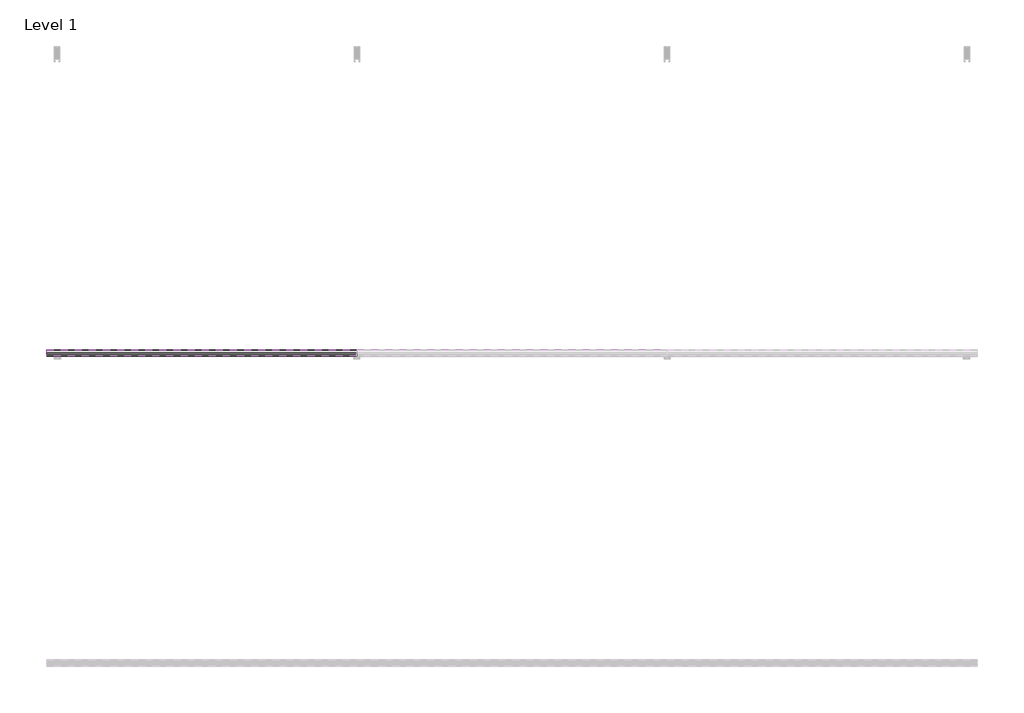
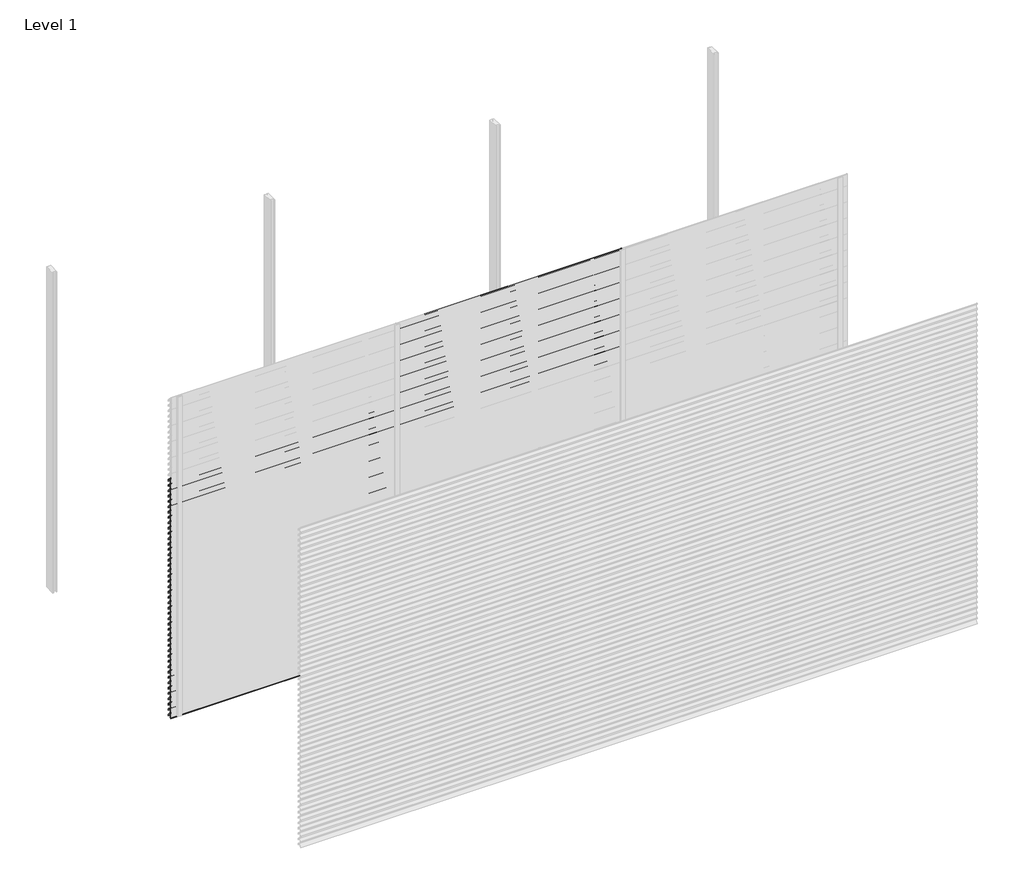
# One storey, part 22 of 38: 66 proxies.
"""IFC4 building model written with IfcOpenShell, lengths in millimetres."""

from ifc_helpers import new_model, si_unit, frame, origin, place, context, project, spatial, polyline, outline, extrude, element, save

model = new_model("IFC4")

# Units and contexts
model_context = context("Model", 3, world=origin())
ifc_project = project(units=[si_unit("LENGTHUNIT", "METRE", prefix="MILLI")], contexts=[model_context])

# Site, building, storey
site = spatial("IfcSite", under=ifc_project)
building = spatial("IfcBuilding", under=site)
storey = spatial("IfcBuildingStorey", under=building, Name="Level 1", Elevation=0.0)

# Proxies
placement = place(None, origin())
element("IfcBuildingElementProxy", 1, Name="Wall Sweeps", at=placement, inside=storey, context=model_context, shape_type="SweptSolid", body=[
    extrude(outline(polyline([(-23996.75, 2250.0), (-23996.75, 2239.19656), (-23974.6057113, 2226.4115489), (-23957.0, 2209.0472005), (-23957.0, 2194.0472005), (-23958.3, 2195.0268207), (-23958.3, 2208.5034593), (-23969.4914725, 2219.541504), (-23994.2797376, 2190.0), (-23995.9767671, 2190.0), (-23970.4200307, 2220.4573323), (-23975.3999793, 2225.3690091), (-23998.0, 2238.4171371), (-23998.0, 2250.0), (-23996.75, 2250.0)])), frame((0.0, 0.0, 0.0), z_axis=(1.0, 0.0, 0.0), x_axis=(0.0, 1.0, 0.0)), (0.0, 0.0, 1.0), 2000.0),
])
element("IfcBuildingElementProxy", 2, Name="Wall Sweeps", at=placement, inside=storey, context=model_context, shape_type="SweptSolid", body=[
    extrude(outline(polyline([(-23996.75, 2200.0), (-23996.75, 2189.19656), (-23974.6057113, 2176.4115489), (-23957.0, 2159.0472005), (-23957.0, 2144.0472005), (-23958.3, 2145.0268207), (-23958.3, 2158.5034593), (-23969.4914725, 2169.541504), (-23994.2797376, 2140.0), (-23995.9767671, 2140.0), (-23970.4200307, 2170.4573323), (-23975.3999793, 2175.3690091), (-23998.0, 2188.4171371), (-23998.0, 2200.0), (-23996.75, 2200.0)])), frame((0.0, 0.0, 0.0), z_axis=(1.0, 0.0, 0.0), x_axis=(0.0, 1.0, 0.0)), (0.0, 0.0, 1.0), 2000.0),
])
element("IfcBuildingElementProxy", 3, Name="Wall Sweeps", at=placement, inside=storey, context=model_context, shape_type="SweptSolid", body=[
    extrude(outline(polyline([(-23996.75, 2150.0), (-23996.75, 2139.19656), (-23974.6057113, 2126.4115489), (-23957.0, 2109.0472005), (-23957.0, 2094.0472005), (-23958.3, 2095.0268207), (-23958.3, 2108.5034593), (-23969.4914725, 2119.541504), (-23994.2797376, 2090.0), (-23995.9767671, 2090.0), (-23970.4200307, 2120.4573323), (-23975.3999793, 2125.3690091), (-23998.0, 2138.4171371), (-23998.0, 2150.0), (-23996.75, 2150.0)])), frame((0.0, 0.0, 0.0), z_axis=(1.0, 0.0, 0.0), x_axis=(0.0, 1.0, 0.0)), (0.0, 0.0, 1.0), 2000.0),
])
element("IfcBuildingElementProxy", 4, Name="Wall Sweeps", at=placement, inside=storey, context=model_context, shape_type="SweptSolid", body=[
    extrude(outline(polyline([(-23996.75, 2100.0), (-23996.75, 2089.19656), (-23974.6057113, 2076.4115489), (-23957.0, 2059.0472005), (-23957.0, 2044.0472005), (-23958.3, 2045.0268207), (-23958.3, 2058.5034593), (-23969.4914725, 2069.541504), (-23994.2797376, 2040.0), (-23995.9767671, 2040.0), (-23970.4200307, 2070.4573323), (-23975.3999793, 2075.3690091), (-23998.0, 2088.4171371), (-23998.0, 2100.0), (-23996.75, 2100.0)])), frame((0.0, 0.0, 0.0), z_axis=(1.0, 0.0, 0.0), x_axis=(0.0, 1.0, 0.0)), (0.0, 0.0, 1.0), 2000.0),
])
element("IfcBuildingElementProxy", 5, Name="Wall Sweeps", at=placement, inside=storey, context=model_context, shape_type="SweptSolid", body=[
    extrude(outline(polyline([(-23996.75, 2050.0), (-23996.75, 2039.19656), (-23974.6057113, 2026.4115489), (-23957.0, 2009.0472005), (-23957.0, 1994.0472005), (-23958.3, 1995.0268207), (-23958.3, 2008.5034593), (-23969.4914725, 2019.541504), (-23994.2797376, 1990.0), (-23995.9767671, 1990.0), (-23970.4200307, 2020.4573323), (-23975.3999793, 2025.3690091), (-23998.0, 2038.4171371), (-23998.0, 2050.0), (-23996.75, 2050.0)])), frame((0.0, 0.0, 0.0), z_axis=(1.0, 0.0, 0.0), x_axis=(0.0, 1.0, 0.0)), (0.0, 0.0, 1.0), 2000.0),
])
element("IfcBuildingElementProxy", 6, Name="Wall Sweeps", at=placement, inside=storey, context=model_context, shape_type="SweptSolid", body=[
    extrude(outline(polyline([(-23996.75, 2000.0), (-23996.75, 1989.19656), (-23974.6057113, 1976.4115489), (-23957.0, 1959.0472005), (-23957.0, 1944.0472005), (-23958.3, 1945.0268207), (-23958.3, 1958.5034593), (-23969.4914725, 1969.541504), (-23994.2797376, 1940.0), (-23995.9767671, 1940.0), (-23970.4200307, 1970.4573323), (-23975.3999793, 1975.3690091), (-23998.0, 1988.4171371), (-23998.0, 2000.0), (-23996.75, 2000.0)])), frame((0.0, 0.0, 0.0), z_axis=(1.0, 0.0, 0.0), x_axis=(0.0, 1.0, 0.0)), (0.0, 0.0, 1.0), 2000.0),
])
element("IfcBuildingElementProxy", 7, Name="Wall Sweeps", at=placement, inside=storey, context=model_context, shape_type="SweptSolid", body=[
    extrude(outline(polyline([(-23996.75, 1950.0), (-23996.75, 1939.19656), (-23974.6057113, 1926.4115489), (-23957.0, 1909.0472005), (-23957.0, 1894.0472005), (-23958.3, 1895.0268207), (-23958.3, 1908.5034593), (-23969.4914725, 1919.541504), (-23994.2797376, 1890.0), (-23995.9767671, 1890.0), (-23970.4200307, 1920.4573323), (-23975.3999793, 1925.3690091), (-23998.0, 1938.4171371), (-23998.0, 1950.0), (-23996.75, 1950.0)])), frame((0.0, 0.0, 0.0), z_axis=(1.0, 0.0, 0.0), x_axis=(0.0, 1.0, 0.0)), (0.0, 0.0, 1.0), 2000.0),
])
element("IfcBuildingElementProxy", 8, Name="Wall Sweeps", at=placement, inside=storey, context=model_context, shape_type="SweptSolid", body=[
    extrude(outline(polyline([(-23996.75, 1900.0), (-23996.75, 1889.19656), (-23974.6057113, 1876.4115489), (-23957.0, 1859.0472005), (-23957.0, 1844.0472005), (-23958.3, 1845.0268207), (-23958.3, 1858.5034593), (-23969.4914725, 1869.541504), (-23994.2797376, 1840.0), (-23995.9767671, 1840.0), (-23970.4200307, 1870.4573323), (-23975.3999793, 1875.3690091), (-23998.0, 1888.4171371), (-23998.0, 1900.0), (-23996.75, 1900.0)])), frame((0.0, 0.0, 0.0), z_axis=(1.0, 0.0, 0.0), x_axis=(0.0, 1.0, 0.0)), (0.0, 0.0, 1.0), 2000.0),
])
element("IfcBuildingElementProxy", 9, Name="Wall Sweeps", at=placement, inside=storey, context=model_context, shape_type="SweptSolid", body=[
    extrude(outline(polyline([(-23996.75, 1850.0), (-23996.75, 1839.19656), (-23974.6057113, 1826.4115489), (-23957.0, 1809.0472005), (-23957.0, 1794.0472005), (-23958.3, 1795.0268207), (-23958.3, 1808.5034593), (-23969.4914725, 1819.541504), (-23994.2797376, 1790.0), (-23995.9767671, 1790.0), (-23970.4200307, 1820.4573323), (-23975.3999793, 1825.3690091), (-23998.0, 1838.4171371), (-23998.0, 1850.0), (-23996.75, 1850.0)])), frame((0.0, 0.0, 0.0), z_axis=(1.0, 0.0, 0.0), x_axis=(0.0, 1.0, 0.0)), (0.0, 0.0, 1.0), 2000.0),
])
element("IfcBuildingElementProxy", 10, Name="Wall Sweeps", at=placement, inside=storey, context=model_context, shape_type="SweptSolid", body=[
    extrude(outline(polyline([(-23996.75, 1800.0), (-23996.75, 1789.19656), (-23974.6057113, 1776.4115489), (-23957.0, 1759.0472005), (-23957.0, 1744.0472005), (-23958.3, 1745.0268207), (-23958.3, 1758.5034593), (-23969.4914725, 1769.541504), (-23994.2797376, 1740.0), (-23995.9767671, 1740.0), (-23970.4200307, 1770.4573323), (-23975.3999793, 1775.3690091), (-23998.0, 1788.4171371), (-23998.0, 1800.0), (-23996.75, 1800.0)])), frame((0.0, 0.0, 0.0), z_axis=(1.0, 0.0, 0.0), x_axis=(0.0, 1.0, 0.0)), (0.0, 0.0, 1.0), 2000.0),
])
element("IfcBuildingElementProxy", 11, Name="Wall Sweeps", at=placement, inside=storey, context=model_context, shape_type="SweptSolid", body=[
    extrude(outline(polyline([(-23996.75, 1750.0), (-23996.75, 1739.19656), (-23974.6057113, 1726.4115489), (-23957.0, 1709.0472005), (-23957.0, 1694.0472005), (-23958.3, 1695.0268207), (-23958.3, 1708.5034593), (-23969.4914725, 1719.541504), (-23994.2797376, 1690.0), (-23995.9767671, 1690.0), (-23970.4200307, 1720.4573323), (-23975.3999793, 1725.3690091), (-23998.0, 1738.4171371), (-23998.0, 1750.0), (-23996.75, 1750.0)])), frame((0.0, 0.0, 0.0), z_axis=(1.0, 0.0, 0.0), x_axis=(0.0, 1.0, 0.0)), (0.0, 0.0, 1.0), 2000.0),
])
element("IfcBuildingElementProxy", 12, Name="Wall Sweeps", at=placement, inside=storey, context=model_context, shape_type="SweptSolid", body=[
    extrude(outline(polyline([(-23996.75, 1700.0), (-23996.75, 1689.19656), (-23974.6057113, 1676.4115489), (-23957.0, 1659.0472005), (-23957.0, 1644.0472005), (-23958.3, 1645.0268207), (-23958.3, 1658.5034593), (-23969.4914725, 1669.541504), (-23994.2797376, 1640.0), (-23995.9767671, 1640.0), (-23970.4200307, 1670.4573323), (-23975.3999793, 1675.3690091), (-23998.0, 1688.4171371), (-23998.0, 1700.0), (-23996.75, 1700.0)])), frame((0.0, 0.0, 0.0), z_axis=(1.0, 0.0, 0.0), x_axis=(0.0, 1.0, 0.0)), (0.0, 0.0, 1.0), 2000.0),
])
element("IfcBuildingElementProxy", 13, Name="Wall Sweeps", at=placement, inside=storey, context=model_context, shape_type="SweptSolid", body=[
    extrude(outline(polyline([(-23996.75, 1650.0), (-23996.75, 1639.19656), (-23974.6057113, 1626.4115489), (-23957.0, 1609.0472005), (-23957.0, 1594.0472005), (-23958.3, 1595.0268207), (-23958.3, 1608.5034593), (-23969.4914725, 1619.541504), (-23994.2797376, 1590.0), (-23995.9767671, 1590.0), (-23970.4200307, 1620.4573323), (-23975.3999793, 1625.3690091), (-23998.0, 1638.4171371), (-23998.0, 1650.0), (-23996.75, 1650.0)])), frame((0.0, 0.0, 0.0), z_axis=(1.0, 0.0, 0.0), x_axis=(0.0, 1.0, 0.0)), (0.0, 0.0, 1.0), 2000.0),
])
element("IfcBuildingElementProxy", 14, Name="Wall Sweeps", at=placement, inside=storey, context=model_context, shape_type="SweptSolid", body=[
    extrude(outline(polyline([(-23996.75, 1600.0), (-23996.75, 1589.19656), (-23974.6057113, 1576.4115489), (-23957.0, 1559.0472005), (-23957.0, 1544.0472005), (-23958.3, 1545.0268207), (-23958.3, 1558.5034593), (-23969.4914725, 1569.541504), (-23994.2797376, 1540.0), (-23995.9767671, 1540.0), (-23970.4200307, 1570.4573323), (-23975.3999793, 1575.3690091), (-23998.0, 1588.4171371), (-23998.0, 1600.0), (-23996.75, 1600.0)])), frame((0.0, 0.0, 0.0), z_axis=(1.0, 0.0, 0.0), x_axis=(0.0, 1.0, 0.0)), (0.0, 0.0, 1.0), 2000.0),
])
element("IfcBuildingElementProxy", 15, Name="Wall Sweeps", at=placement, inside=storey, context=model_context, shape_type="SweptSolid", body=[
    extrude(outline(polyline([(-23996.75, 1550.0), (-23996.75, 1539.19656), (-23974.6057113, 1526.4115489), (-23957.0, 1509.0472005), (-23957.0, 1494.0472005), (-23958.3, 1495.0268207), (-23958.3, 1508.5034593), (-23969.4914725, 1519.541504), (-23994.2797376, 1490.0), (-23995.9767671, 1490.0), (-23970.4200307, 1520.4573323), (-23975.3999793, 1525.3690091), (-23998.0, 1538.4171371), (-23998.0, 1550.0), (-23996.75, 1550.0)])), frame((0.0, 0.0, 0.0), z_axis=(1.0, 0.0, 0.0), x_axis=(0.0, 1.0, 0.0)), (0.0, 0.0, 1.0), 2000.0),
])
element("IfcBuildingElementProxy", 16, Name="Wall Sweeps", at=placement, inside=storey, context=model_context, shape_type="SweptSolid", body=[
    extrude(outline(polyline([(-23996.75, 1500.0), (-23996.75, 1489.19656), (-23974.6057113, 1476.4115489), (-23957.0, 1459.0472005), (-23957.0, 1444.0472005), (-23958.3, 1445.0268207), (-23958.3, 1458.5034593), (-23969.4914725, 1469.541504), (-23994.2797376, 1440.0), (-23995.9767671, 1440.0), (-23970.4200307, 1470.4573323), (-23975.3999793, 1475.3690091), (-23998.0, 1488.4171371), (-23998.0, 1500.0), (-23996.75, 1500.0)])), frame((0.0, 0.0, 0.0), z_axis=(1.0, 0.0, 0.0), x_axis=(0.0, 1.0, 0.0)), (0.0, 0.0, 1.0), 2000.0),
])
element("IfcBuildingElementProxy", 17, Name="Wall Sweeps", at=placement, inside=storey, context=model_context, shape_type="SweptSolid", body=[
    extrude(outline(polyline([(-23996.75, 1450.0), (-23996.75, 1439.19656), (-23974.6057113, 1426.4115489), (-23957.0, 1409.0472005), (-23957.0, 1394.0472005), (-23958.3, 1395.0268207), (-23958.3, 1408.5034593), (-23969.4914725, 1419.541504), (-23994.2797376, 1390.0), (-23995.9767671, 1390.0), (-23970.4200307, 1420.4573323), (-23975.3999793, 1425.3690091), (-23998.0, 1438.4171371), (-23998.0, 1450.0), (-23996.75, 1450.0)])), frame((0.0, 0.0, 0.0), z_axis=(1.0, 0.0, 0.0), x_axis=(0.0, 1.0, 0.0)), (0.0, 0.0, 1.0), 2000.0),
])
element("IfcBuildingElementProxy", 18, Name="Wall Sweeps", at=placement, inside=storey, context=model_context, shape_type="SweptSolid", body=[
    extrude(outline(polyline([(-23996.75, 1400.0), (-23996.75, 1389.19656), (-23974.6057113, 1376.4115489), (-23957.0, 1359.0472005), (-23957.0, 1344.0472005), (-23958.3, 1345.0268207), (-23958.3, 1358.5034593), (-23969.4914725, 1369.541504), (-23994.2797376, 1340.0), (-23995.9767671, 1340.0), (-23970.4200307, 1370.4573323), (-23975.3999793, 1375.3690091), (-23998.0, 1388.4171371), (-23998.0, 1400.0), (-23996.75, 1400.0)])), frame((0.0, 0.0, 0.0), z_axis=(1.0, 0.0, 0.0), x_axis=(0.0, 1.0, 0.0)), (0.0, 0.0, 1.0), 2000.0),
])
element("IfcBuildingElementProxy", 19, Name="Wall Sweeps", at=placement, inside=storey, context=model_context, shape_type="SweptSolid", body=[
    extrude(outline(polyline([(-23996.75, 1350.0), (-23996.75, 1339.19656), (-23974.6057113, 1326.4115489), (-23957.0, 1309.0472005), (-23957.0, 1294.0472005), (-23958.3, 1295.0268207), (-23958.3, 1308.5034593), (-23969.4914725, 1319.541504), (-23994.2797376, 1290.0), (-23995.9767671, 1290.0), (-23970.4200307, 1320.4573323), (-23975.3999793, 1325.3690091), (-23998.0, 1338.4171371), (-23998.0, 1350.0), (-23996.75, 1350.0)])), frame((0.0, 0.0, 0.0), z_axis=(1.0, 0.0, 0.0), x_axis=(0.0, 1.0, 0.0)), (0.0, 0.0, 1.0), 2000.0),
])
element("IfcBuildingElementProxy", 20, Name="Wall Sweeps", at=placement, inside=storey, context=model_context, shape_type="SweptSolid", body=[
    extrude(outline(polyline([(-23996.75, 1300.0), (-23996.75, 1289.19656), (-23974.6057113, 1276.4115489), (-23957.0, 1259.0472005), (-23957.0, 1244.0472005), (-23958.3, 1245.0268207), (-23958.3, 1258.5034593), (-23969.4914725, 1269.541504), (-23994.2797376, 1240.0), (-23995.9767671, 1240.0), (-23970.4200307, 1270.4573323), (-23975.3999793, 1275.3690091), (-23998.0, 1288.4171371), (-23998.0, 1300.0), (-23996.75, 1300.0)])), frame((0.0, 0.0, 0.0), z_axis=(1.0, 0.0, 0.0), x_axis=(0.0, 1.0, 0.0)), (0.0, 0.0, 1.0), 2000.0),
])
element("IfcBuildingElementProxy", 21, Name="Wall Sweeps", at=placement, inside=storey, context=model_context, shape_type="SweptSolid", body=[
    extrude(outline(polyline([(-23996.75, 1250.0), (-23996.75, 1239.19656), (-23974.6057113, 1226.4115489), (-23957.0, 1209.0472005), (-23957.0, 1194.0472005), (-23958.3, 1195.0268207), (-23958.3, 1208.5034593), (-23969.4914725, 1219.541504), (-23994.2797376, 1190.0), (-23995.9767671, 1190.0), (-23970.4200307, 1220.4573323), (-23975.3999793, 1225.3690091), (-23998.0, 1238.4171371), (-23998.0, 1250.0), (-23996.75, 1250.0)])), frame((0.0, 0.0, 0.0), z_axis=(1.0, 0.0, 0.0), x_axis=(0.0, 1.0, 0.0)), (0.0, 0.0, 1.0), 2000.0),
])
element("IfcBuildingElementProxy", 22, Name="Wall Sweeps", at=placement, inside=storey, context=model_context, shape_type="SweptSolid", body=[
    extrude(outline(polyline([(-23996.75, 1200.0), (-23996.75, 1189.19656), (-23974.6057113, 1176.4115489), (-23957.0, 1159.0472005), (-23957.0, 1144.0472005), (-23958.3, 1145.0268207), (-23958.3, 1158.5034593), (-23969.4914725, 1169.541504), (-23994.2797376, 1140.0), (-23995.9767671, 1140.0), (-23970.4200307, 1170.4573323), (-23975.3999793, 1175.3690091), (-23998.0, 1188.4171371), (-23998.0, 1200.0), (-23996.75, 1200.0)])), frame((0.0, 0.0, 0.0), z_axis=(1.0, 0.0, 0.0), x_axis=(0.0, 1.0, 0.0)), (0.0, 0.0, 1.0), 2000.0),
])
element("IfcBuildingElementProxy", 23, Name="Wall Sweeps", at=placement, inside=storey, context=model_context, shape_type="SweptSolid", body=[
    extrude(outline(polyline([(-23996.75, 1150.0), (-23996.75, 1139.19656), (-23974.6057113, 1126.4115489), (-23957.0, 1109.0472005), (-23957.0, 1094.0472005), (-23958.3, 1095.0268207), (-23958.3, 1108.5034593), (-23969.4914725, 1119.541504), (-23994.2797376, 1090.0), (-23995.9767671, 1090.0), (-23970.4200307, 1120.4573323), (-23975.3999793, 1125.3690091), (-23998.0, 1138.4171371), (-23998.0, 1150.0), (-23996.75, 1150.0)])), frame((0.0, 0.0, 0.0), z_axis=(1.0, 0.0, 0.0), x_axis=(0.0, 1.0, 0.0)), (0.0, 0.0, 1.0), 2000.0),
])
element("IfcBuildingElementProxy", 24, Name="Wall Sweeps", at=placement, inside=storey, context=model_context, shape_type="SweptSolid", body=[
    extrude(outline(polyline([(-23996.75, 1100.0), (-23996.75, 1089.19656), (-23974.6057113, 1076.4115489), (-23957.0, 1059.0472005), (-23957.0, 1044.0472005), (-23958.3, 1045.0268207), (-23958.3, 1058.5034593), (-23969.4914725, 1069.541504), (-23994.2797376, 1040.0), (-23995.9767671, 1040.0), (-23970.4200307, 1070.4573323), (-23975.3999793, 1075.3690091), (-23998.0, 1088.4171371), (-23998.0, 1100.0), (-23996.75, 1100.0)])), frame((0.0, 0.0, 0.0), z_axis=(1.0, 0.0, 0.0), x_axis=(0.0, 1.0, 0.0)), (0.0, 0.0, 1.0), 2000.0),
])
element("IfcBuildingElementProxy", 25, Name="Wall Sweeps", at=placement, inside=storey, context=model_context, shape_type="SweptSolid", body=[
    extrude(outline(polyline([(-23996.75, 1050.0), (-23996.75, 1039.19656), (-23974.6057113, 1026.4115489), (-23957.0, 1009.0472005), (-23957.0, 994.0472005), (-23958.3, 995.0268207), (-23958.3, 1008.5034593), (-23969.4914725, 1019.541504), (-23994.2797376, 990.0), (-23995.9767671, 990.0), (-23970.4200307, 1020.4573323), (-23975.3999793, 1025.3690091), (-23998.0, 1038.4171371), (-23998.0, 1050.0), (-23996.75, 1050.0)])), frame((0.0, 0.0, 0.0), z_axis=(1.0, 0.0, 0.0), x_axis=(0.0, 1.0, 0.0)), (0.0, 0.0, 1.0), 2000.0),
])
element("IfcBuildingElementProxy", 26, Name="Wall Sweeps", at=placement, inside=storey, context=model_context, shape_type="SweptSolid", body=[
    extrude(outline(polyline([(-23996.75, 1000.0), (-23996.75, 989.19656), (-23974.6057113, 976.4115489), (-23957.0, 959.0472005), (-23957.0, 944.0472005), (-23958.3, 945.0268207), (-23958.3, 958.5034593), (-23969.4914725, 969.541504), (-23994.2797376, 940.0), (-23995.9767671, 940.0), (-23970.4200307, 970.4573323), (-23975.3999793, 975.3690091), (-23998.0, 988.4171371), (-23998.0, 1000.0), (-23996.75, 1000.0)])), frame((0.0, 0.0, 0.0), z_axis=(1.0, 0.0, 0.0), x_axis=(0.0, 1.0, 0.0)), (0.0, 0.0, 1.0), 2000.0),
])
element("IfcBuildingElementProxy", 27, Name="Wall Sweeps", at=placement, inside=storey, context=model_context, shape_type="SweptSolid", body=[
    extrude(outline(polyline([(-23996.75, 950.0), (-23996.75, 939.19656), (-23974.6057113, 926.4115489), (-23957.0, 909.0472005), (-23957.0, 894.0472005), (-23958.3, 895.0268207), (-23958.3, 908.5034593), (-23969.4914725, 919.541504), (-23994.2797376, 890.0), (-23995.9767671, 890.0), (-23970.4200307, 920.4573323), (-23975.3999793, 925.3690091), (-23998.0, 938.4171371), (-23998.0, 950.0), (-23996.75, 950.0)])), frame((0.0, 0.0, 0.0), z_axis=(1.0, 0.0, 0.0), x_axis=(0.0, 1.0, 0.0)), (0.0, 0.0, 1.0), 2000.0),
])
element("IfcBuildingElementProxy", 28, Name="Wall Sweeps", at=placement, inside=storey, context=model_context, shape_type="SweptSolid", body=[
    extrude(outline(polyline([(-23996.75, 900.0), (-23996.75, 889.19656), (-23974.6057113, 876.4115489), (-23957.0, 859.0472005), (-23957.0, 844.0472005), (-23958.3, 845.0268207), (-23958.3, 858.5034593), (-23969.4914725, 869.541504), (-23994.2797376, 840.0), (-23995.9767671, 840.0), (-23970.4200307, 870.4573323), (-23975.3999793, 875.3690091), (-23998.0, 888.4171371), (-23998.0, 900.0), (-23996.75, 900.0)])), frame((0.0, 0.0, 0.0), z_axis=(1.0, 0.0, 0.0), x_axis=(0.0, 1.0, 0.0)), (0.0, 0.0, 1.0), 2000.0),
])
element("IfcBuildingElementProxy", 29, Name="Wall Sweeps", at=placement, inside=storey, context=model_context, shape_type="SweptSolid", body=[
    extrude(outline(polyline([(-23996.75, 850.0), (-23996.75, 839.19656), (-23974.6057113, 826.4115489), (-23957.0, 809.0472005), (-23957.0, 794.0472005), (-23958.3, 795.0268207), (-23958.3, 808.5034593), (-23969.4914725, 819.541504), (-23994.2797376, 790.0), (-23995.9767671, 790.0), (-23970.4200307, 820.4573323), (-23975.3999793, 825.3690091), (-23998.0, 838.4171371), (-23998.0, 850.0), (-23996.75, 850.0)])), frame((0.0, 0.0, 0.0), z_axis=(1.0, 0.0, 0.0), x_axis=(0.0, 1.0, 0.0)), (0.0, 0.0, 1.0), 2000.0),
])
element("IfcBuildingElementProxy", 30, Name="Wall Sweeps", at=placement, inside=storey, context=model_context, shape_type="SweptSolid", body=[
    extrude(outline(polyline([(-23996.75, 800.0), (-23996.75, 789.19656), (-23974.6057113, 776.4115489), (-23957.0, 759.0472005), (-23957.0, 744.0472005), (-23958.3, 745.0268207), (-23958.3, 758.5034593), (-23969.4914725, 769.541504), (-23994.2797376, 740.0), (-23995.9767671, 740.0), (-23970.4200307, 770.4573323), (-23975.3999793, 775.3690091), (-23998.0, 788.4171371), (-23998.0, 800.0), (-23996.75, 800.0)])), frame((0.0, 0.0, 0.0), z_axis=(1.0, 0.0, 0.0), x_axis=(0.0, 1.0, 0.0)), (0.0, 0.0, 1.0), 2000.0),
])
element("IfcBuildingElementProxy", 31, Name="Wall Sweeps", at=placement, inside=storey, context=model_context, shape_type="SweptSolid", body=[
    extrude(outline(polyline([(-23996.75, 750.0), (-23996.75, 739.19656), (-23974.6057113, 726.4115489), (-23957.0, 709.0472005), (-23957.0, 694.0472005), (-23958.3, 695.0268207), (-23958.3, 708.5034593), (-23969.4914725, 719.541504), (-23994.2797376, 690.0), (-23995.9767671, 690.0), (-23970.4200307, 720.4573323), (-23975.3999793, 725.3690091), (-23998.0, 738.4171371), (-23998.0, 750.0), (-23996.75, 750.0)])), frame((0.0, 0.0, 0.0), z_axis=(1.0, 0.0, 0.0), x_axis=(0.0, 1.0, 0.0)), (0.0, 0.0, 1.0), 2000.0),
])
element("IfcBuildingElementProxy", 32, Name="Wall Sweeps", at=placement, inside=storey, context=model_context, shape_type="SweptSolid", body=[
    extrude(outline(polyline([(-23996.75, 700.0), (-23996.75, 689.19656), (-23974.6057113, 676.4115489), (-23957.0, 659.0472005), (-23957.0, 644.0472005), (-23958.3, 645.0268207), (-23958.3, 658.5034593), (-23969.4914725, 669.541504), (-23994.2797376, 640.0), (-23995.9767671, 640.0), (-23970.4200307, 670.4573323), (-23975.3999793, 675.3690091), (-23998.0, 688.4171371), (-23998.0, 700.0), (-23996.75, 700.0)])), frame((0.0, 0.0, 0.0), z_axis=(1.0, 0.0, 0.0), x_axis=(0.0, 1.0, 0.0)), (0.0, 0.0, 1.0), 2000.0),
])
element("IfcBuildingElementProxy", 33, Name="Wall Sweeps", at=placement, inside=storey, context=model_context, shape_type="SweptSolid", body=[
    extrude(outline(polyline([(-23996.75, 650.0), (-23996.75, 639.19656), (-23974.6057113, 626.4115489), (-23957.0, 609.0472005), (-23957.0, 594.0472005), (-23958.3, 595.0268207), (-23958.3, 608.5034593), (-23969.4914725, 619.541504), (-23994.2797376, 590.0), (-23995.9767671, 590.0), (-23970.4200307, 620.4573323), (-23975.3999793, 625.3690091), (-23998.0, 638.4171371), (-23998.0, 650.0), (-23996.75, 650.0)])), frame((0.0, 0.0, 0.0), z_axis=(1.0, 0.0, 0.0), x_axis=(0.0, 1.0, 0.0)), (0.0, 0.0, 1.0), 2000.0),
])
element("IfcBuildingElementProxy", 34, Name="Wall Sweeps", at=placement, inside=storey, context=model_context, shape_type="SweptSolid", body=[
    extrude(outline(polyline([(-23996.75, 600.0), (-23996.75, 589.19656), (-23974.6057113, 576.4115489), (-23957.0, 559.0472005), (-23957.0, 544.0472005), (-23958.3, 545.0268207), (-23958.3, 558.5034593), (-23969.4914725, 569.541504), (-23994.2797376, 540.0), (-23995.9767671, 540.0), (-23970.4200307, 570.4573323), (-23975.3999793, 575.3690091), (-23998.0, 588.4171371), (-23998.0, 600.0), (-23996.75, 600.0)])), frame((0.0, 0.0, 0.0), z_axis=(1.0, 0.0, 0.0), x_axis=(0.0, 1.0, 0.0)), (0.0, 0.0, 1.0), 2000.0),
])
element("IfcBuildingElementProxy", 35, Name="Wall Sweeps", at=placement, inside=storey, context=model_context, shape_type="SweptSolid", body=[
    extrude(outline(polyline([(-23996.75, 550.0), (-23996.75, 539.19656), (-23974.6057113, 526.4115489), (-23957.0, 509.0472005), (-23957.0, 494.0472005), (-23958.3, 495.0268207), (-23958.3, 508.5034593), (-23969.4914725, 519.541504), (-23994.2797376, 490.0), (-23995.9767671, 490.0), (-23970.4200307, 520.4573323), (-23975.3999793, 525.3690091), (-23998.0, 538.4171371), (-23998.0, 550.0), (-23996.75, 550.0)])), frame((0.0, 0.0, 0.0), z_axis=(1.0, 0.0, 0.0), x_axis=(0.0, 1.0, 0.0)), (0.0, 0.0, 1.0), 2000.0),
])
element("IfcBuildingElementProxy", 36, Name="Wall Sweeps", at=placement, inside=storey, context=model_context, shape_type="SweptSolid", body=[
    extrude(outline(polyline([(-23996.75, 500.0), (-23996.75, 489.19656), (-23974.6057113, 476.4115489), (-23957.0, 459.0472005), (-23957.0, 444.0472005), (-23958.3, 445.0268207), (-23958.3, 458.5034593), (-23969.4914725, 469.541504), (-23994.2797376, 440.0), (-23995.9767671, 440.0), (-23970.4200307, 470.4573323), (-23975.3999793, 475.3690091), (-23998.0, 488.4171371), (-23998.0, 500.0), (-23996.75, 500.0)])), frame((0.0, 0.0, 0.0), z_axis=(1.0, 0.0, 0.0), x_axis=(0.0, 1.0, 0.0)), (0.0, 0.0, 1.0), 2000.0),
])
element("IfcBuildingElementProxy", 37, Name="Wall Sweeps", at=placement, inside=storey, context=model_context, shape_type="SweptSolid", body=[
    extrude(outline(polyline([(-23996.75, 450.0), (-23996.75, 439.19656), (-23974.6057113, 426.4115489), (-23957.0, 409.0472005), (-23957.0, 394.0472005), (-23958.3, 395.0268207), (-23958.3, 408.5034593), (-23969.4914725, 419.541504), (-23994.2797376, 390.0), (-23995.9767671, 390.0), (-23970.4200307, 420.4573323), (-23975.3999793, 425.3690091), (-23998.0, 438.4171371), (-23998.0, 450.0), (-23996.75, 450.0)])), frame((0.0, 0.0, 0.0), z_axis=(1.0, 0.0, 0.0), x_axis=(0.0, 1.0, 0.0)), (0.0, 0.0, 1.0), 2000.0),
])
element("IfcBuildingElementProxy", 38, Name="Wall Sweeps", at=placement, inside=storey, context=model_context, shape_type="SweptSolid", body=[
    extrude(outline(polyline([(-23996.75, 400.0), (-23996.75, 389.19656), (-23974.6057113, 376.4115489), (-23957.0, 359.0472005), (-23957.0, 344.0472005), (-23958.3, 345.0268207), (-23958.3, 358.5034593), (-23969.4914725, 369.541504), (-23994.2797376, 340.0), (-23995.9767671, 340.0), (-23970.4200307, 370.4573323), (-23975.3999793, 375.3690091), (-23998.0, 388.4171371), (-23998.0, 400.0), (-23996.75, 400.0)])), frame((0.0, 0.0, 0.0), z_axis=(1.0, 0.0, 0.0), x_axis=(0.0, 1.0, 0.0)), (0.0, 0.0, 1.0), 2000.0),
])
element("IfcBuildingElementProxy", 39, Name="Wall Sweeps", at=placement, inside=storey, context=model_context, shape_type="SweptSolid", body=[
    extrude(outline(polyline([(-23996.75, 350.0), (-23996.75, 339.19656), (-23974.6057113, 326.4115489), (-23957.0, 309.0472005), (-23957.0, 294.0472005), (-23958.3, 295.0268207), (-23958.3, 308.5034593), (-23969.4914725, 319.541504), (-23994.2797376, 290.0), (-23995.9767671, 290.0), (-23970.4200307, 320.4573323), (-23975.3999793, 325.3690091), (-23998.0, 338.4171371), (-23998.0, 350.0), (-23996.75, 350.0)])), frame((0.0, 0.0, 0.0), z_axis=(1.0, 0.0, 0.0), x_axis=(0.0, 1.0, 0.0)), (0.0, 0.0, 1.0), 2000.0),
])
element("IfcBuildingElementProxy", 40, Name="Wall Sweeps", at=placement, inside=storey, context=model_context, shape_type="SweptSolid", body=[
    extrude(outline(polyline([(-23996.75, 300.0), (-23996.75, 289.19656), (-23974.6057113, 276.4115489), (-23957.0, 259.0472005), (-23957.0, 244.0472005), (-23958.3, 245.0268207), (-23958.3, 258.5034593), (-23969.4914725, 269.541504), (-23994.2797376, 240.0), (-23995.9767671, 240.0), (-23970.4200307, 270.4573323), (-23975.3999793, 275.3690091), (-23998.0, 288.4171371), (-23998.0, 300.0), (-23996.75, 300.0)])), frame((0.0, 0.0, 0.0), z_axis=(1.0, 0.0, 0.0), x_axis=(0.0, 1.0, 0.0)), (0.0, 0.0, 1.0), 2000.0),
])
element("IfcBuildingElementProxy", 41, Name="Wall Sweeps", at=placement, inside=storey, context=model_context, shape_type="SweptSolid", body=[
    extrude(outline(polyline([(-23996.75, 250.0), (-23996.75, 239.19656), (-23974.6057113, 226.4115489), (-23957.0, 209.0472005), (-23957.0, 194.0472005), (-23958.3, 195.0268207), (-23958.3, 208.5034593), (-23969.4914725, 219.541504), (-23994.2797376, 190.0), (-23995.9767671, 190.0), (-23970.4200307, 220.4573323), (-23975.3999793, 225.3690091), (-23998.0, 238.4171371), (-23998.0, 250.0), (-23996.75, 250.0)])), frame((0.0, 0.0, 0.0), z_axis=(1.0, 0.0, 0.0), x_axis=(0.0, 1.0, 0.0)), (0.0, 0.0, 1.0), 2000.0),
])
element("IfcBuildingElementProxy", 42, Name="Wall Sweeps", at=placement, inside=storey, context=model_context, shape_type="SweptSolid", body=[
    extrude(outline(polyline([(-23996.75, 200.0), (-23996.75, 189.19656), (-23974.6057113, 176.4115489), (-23957.0, 159.0472005), (-23957.0, 144.0472005), (-23958.3, 145.0268207), (-23958.3, 158.5034593), (-23969.4914725, 169.541504), (-23994.2797376, 140.0), (-23995.9767671, 140.0), (-23970.4200307, 170.4573323), (-23975.3999793, 175.3690091), (-23998.0, 188.4171371), (-23998.0, 200.0), (-23996.75, 200.0)])), frame((0.0, 0.0, 0.0), z_axis=(1.0, 0.0, 0.0), x_axis=(0.0, 1.0, 0.0)), (0.0, 0.0, 1.0), 2000.0),
])
element("IfcBuildingElementProxy", 43, Name="Wall Sweeps", at=placement, inside=storey, context=model_context, shape_type="SweptSolid", body=[
    extrude(outline(polyline([(-23996.75, 150.0), (-23996.75, 139.19656), (-23974.6057113, 126.4115489), (-23957.0, 109.0472005), (-23957.0, 94.0472005), (-23958.3, 95.0268207), (-23958.3, 108.5034593), (-23969.4914725, 119.541504), (-23994.2797376, 90.0), (-23995.9767671, 90.0), (-23970.4200307, 120.4573323), (-23975.3999793, 125.3690091), (-23998.0, 138.4171371), (-23998.0, 150.0), (-23996.75, 150.0)])), frame((0.0, 0.0, 0.0), z_axis=(1.0, 0.0, 0.0), x_axis=(0.0, 1.0, 0.0)), (0.0, 0.0, 1.0), 2000.0),
])
element("IfcBuildingElementProxy", 44, Name="Wall Sweeps", at=placement, inside=storey, context=model_context, shape_type="SweptSolid", body=[
    extrude(outline(polyline([(-23996.75, 100.0), (-23996.75, 89.19656), (-23974.6057113, 76.4115489), (-23957.0, 59.0472005), (-23957.0, 44.0472005), (-23958.3, 45.0268207), (-23958.3, 58.5034593), (-23969.4914725, 69.541504), (-23994.2797376, 40.0), (-23995.9767671, 40.0), (-23970.4200307, 70.4573323), (-23975.3999793, 75.3690091), (-23998.0, 88.4171371), (-23998.0, 100.0), (-23996.75, 100.0)])), frame((0.0, 0.0, 0.0), z_axis=(1.0, 0.0, 0.0), x_axis=(0.0, 1.0, 0.0)), (0.0, 0.0, 1.0), 2000.0),
])
element("IfcBuildingElementProxy", 45, Name="Wall Sweeps", at=placement, inside=storey, context=model_context, shape_type="SweptSolid", body=[
    extrude(outline(polyline([(-23996.75, 50.0), (-23996.75, 39.19656), (-23974.6057113, 26.4115489), (-23957.0, 9.0472005), (-23957.0, -5.9527995), (-23958.3, -4.9731793), (-23958.3, 8.5034593), (-23969.4914725, 19.541504), (-23994.2797376, -10.0), (-23995.9767671, -10.0), (-23970.4200307, 20.4573323), (-23975.3999793, 25.3690091), (-23998.0, 38.4171371), (-23998.0, 50.0), (-23996.75, 50.0)])), frame((0.0, 0.0, 0.0), z_axis=(1.0, 0.0, 0.0), x_axis=(0.0, 1.0, 0.0)), (0.0, 0.0, 1.0), 2000.0),
])
element("IfcBuildingElementProxy", 46, Name="Wall Sweeps", at=placement, inside=storey, context=model_context, shape_type="SweptSolid", body=[
    extrude(outline(polyline([(-23996.75, 3000.0), (-23996.75, 2989.19656), (-23974.6057113, 2976.4115489), (-23957.0, 2959.0472005), (-23957.0, 2944.0472005), (-23958.3, 2945.0268207), (-23958.3, 2958.5034593), (-23969.4914725, 2969.541504), (-23994.2797376, 2940.0), (-23995.9767671, 2940.0), (-23970.4200307, 2970.4573323), (-23975.3999793, 2975.3690091), (-23998.0, 2988.4171371), (-23998.0, 3000.0), (-23996.75, 3000.0)])), frame((2000.0, 0.0, 0.0), z_axis=(1.0, 0.0, 0.0), x_axis=(0.0, 1.0, 0.0)), (0.0, 0.0, 1.0), 2000.0),
])
element("IfcBuildingElementProxy", 47, Name="Wall Sweeps", at=placement, inside=storey, context=model_context, shape_type="SweptSolid", body=[
    extrude(outline(polyline([(-23996.75, 2950.0), (-23996.75, 2939.19656), (-23974.6057113, 2926.4115489), (-23957.0, 2909.0472005), (-23957.0, 2894.0472005), (-23958.3, 2895.0268207), (-23958.3, 2908.5034593), (-23969.4914725, 2919.541504), (-23994.2797376, 2890.0), (-23995.9767671, 2890.0), (-23970.4200307, 2920.4573323), (-23975.3999793, 2925.3690091), (-23998.0, 2938.4171371), (-23998.0, 2950.0), (-23996.75, 2950.0)])), frame((2000.0, 0.0, 0.0), z_axis=(1.0, 0.0, 0.0), x_axis=(0.0, 1.0, 0.0)), (0.0, 0.0, 1.0), 2000.0),
])
element("IfcBuildingElementProxy", 48, Name="Wall Sweeps", at=placement, inside=storey, context=model_context, shape_type="SweptSolid", body=[
    extrude(outline(polyline([(-23996.75, 2900.0), (-23996.75, 2889.19656), (-23974.6057113, 2876.4115489), (-23957.0, 2859.0472005), (-23957.0, 2844.0472005), (-23958.3, 2845.0268207), (-23958.3, 2858.5034593), (-23969.4914725, 2869.541504), (-23994.2797376, 2840.0), (-23995.9767671, 2840.0), (-23970.4200307, 2870.4573323), (-23975.3999793, 2875.3690091), (-23998.0, 2888.4171371), (-23998.0, 2900.0), (-23996.75, 2900.0)])), frame((2000.0, 0.0, 0.0), z_axis=(1.0, 0.0, 0.0), x_axis=(0.0, 1.0, 0.0)), (0.0, 0.0, 1.0), 2000.0),
])
element("IfcBuildingElementProxy", 49, Name="Wall Sweeps", at=placement, inside=storey, context=model_context, shape_type="SweptSolid", body=[
    extrude(outline(polyline([(-23996.75, 2850.0), (-23996.75, 2839.19656), (-23974.6057113, 2826.4115489), (-23957.0, 2809.0472005), (-23957.0, 2794.0472005), (-23958.3, 2795.0268207), (-23958.3, 2808.5034593), (-23969.4914725, 2819.541504), (-23994.2797376, 2790.0), (-23995.9767671, 2790.0), (-23970.4200307, 2820.4573323), (-23975.3999793, 2825.3690091), (-23998.0, 2838.4171371), (-23998.0, 2850.0), (-23996.75, 2850.0)])), frame((2000.0, 0.0, 0.0), z_axis=(1.0, 0.0, 0.0), x_axis=(0.0, 1.0, 0.0)), (0.0, 0.0, 1.0), 2000.0),
])
element("IfcBuildingElementProxy", 50, Name="Wall Sweeps", at=placement, inside=storey, context=model_context, shape_type="SweptSolid", body=[
    extrude(outline(polyline([(-23996.75, 2800.0), (-23996.75, 2789.19656), (-23974.6057113, 2776.4115489), (-23957.0, 2759.0472005), (-23957.0, 2744.0472005), (-23958.3, 2745.0268207), (-23958.3, 2758.5034593), (-23969.4914725, 2769.541504), (-23994.2797376, 2740.0), (-23995.9767671, 2740.0), (-23970.4200307, 2770.4573323), (-23975.3999793, 2775.3690091), (-23998.0, 2788.4171371), (-23998.0, 2800.0), (-23996.75, 2800.0)])), frame((2000.0, 0.0, 0.0), z_axis=(1.0, 0.0, 0.0), x_axis=(0.0, 1.0, 0.0)), (0.0, 0.0, 1.0), 2000.0),
])
element("IfcBuildingElementProxy", 51, Name="Wall Sweeps", at=placement, inside=storey, context=model_context, shape_type="SweptSolid", body=[
    extrude(outline(polyline([(-23996.75, 2750.0), (-23996.75, 2739.19656), (-23974.6057113, 2726.4115489), (-23957.0, 2709.0472005), (-23957.0, 2694.0472005), (-23958.3, 2695.0268207), (-23958.3, 2708.5034593), (-23969.4914725, 2719.541504), (-23994.2797376, 2690.0), (-23995.9767671, 2690.0), (-23970.4200307, 2720.4573323), (-23975.3999793, 2725.3690091), (-23998.0, 2738.4171371), (-23998.0, 2750.0), (-23996.75, 2750.0)])), frame((2000.0, 0.0, 0.0), z_axis=(1.0, 0.0, 0.0), x_axis=(0.0, 1.0, 0.0)), (0.0, 0.0, 1.0), 2000.0),
])
element("IfcBuildingElementProxy", 52, Name="Wall Sweeps", at=placement, inside=storey, context=model_context, shape_type="SweptSolid", body=[
    extrude(outline(polyline([(-23996.75, 2700.0), (-23996.75, 2689.19656), (-23974.6057113, 2676.4115489), (-23957.0, 2659.0472005), (-23957.0, 2644.0472005), (-23958.3, 2645.0268207), (-23958.3, 2658.5034593), (-23969.4914725, 2669.541504), (-23994.2797376, 2640.0), (-23995.9767671, 2640.0), (-23970.4200307, 2670.4573323), (-23975.3999793, 2675.3690091), (-23998.0, 2688.4171371), (-23998.0, 2700.0), (-23996.75, 2700.0)])), frame((2000.0, 0.0, 0.0), z_axis=(1.0, 0.0, 0.0), x_axis=(0.0, 1.0, 0.0)), (0.0, 0.0, 1.0), 2000.0),
])
element("IfcBuildingElementProxy", 53, Name="Wall Sweeps", at=placement, inside=storey, context=model_context, shape_type="SweptSolid", body=[
    extrude(outline(polyline([(-23996.75, 2650.0), (-23996.75, 2639.19656), (-23974.6057113, 2626.4115489), (-23957.0, 2609.0472005), (-23957.0, 2594.0472005), (-23958.3, 2595.0268207), (-23958.3, 2608.5034593), (-23969.4914725, 2619.541504), (-23994.2797376, 2590.0), (-23995.9767671, 2590.0), (-23970.4200307, 2620.4573323), (-23975.3999793, 2625.3690091), (-23998.0, 2638.4171371), (-23998.0, 2650.0), (-23996.75, 2650.0)])), frame((2000.0, 0.0, 0.0), z_axis=(1.0, 0.0, 0.0), x_axis=(0.0, 1.0, 0.0)), (0.0, 0.0, 1.0), 2000.0),
])
element("IfcBuildingElementProxy", 54, Name="Wall Sweeps", at=placement, inside=storey, context=model_context, shape_type="SweptSolid", body=[
    extrude(outline(polyline([(-23996.75, 2600.0), (-23996.75, 2589.19656), (-23974.6057113, 2576.4115489), (-23957.0, 2559.0472005), (-23957.0, 2544.0472005), (-23958.3, 2545.0268207), (-23958.3, 2558.5034593), (-23969.4914725, 2569.541504), (-23994.2797376, 2540.0), (-23995.9767671, 2540.0), (-23970.4200307, 2570.4573323), (-23975.3999793, 2575.3690091), (-23998.0, 2588.4171371), (-23998.0, 2600.0), (-23996.75, 2600.0)])), frame((2000.0, 0.0, 0.0), z_axis=(1.0, 0.0, 0.0), x_axis=(0.0, 1.0, 0.0)), (0.0, 0.0, 1.0), 2000.0),
])
element("IfcBuildingElementProxy", 55, Name="Wall Sweeps", at=placement, inside=storey, context=model_context, shape_type="SweptSolid", body=[
    extrude(outline(polyline([(-23996.75, 2550.0), (-23996.75, 2539.19656), (-23974.6057113, 2526.4115489), (-23957.0, 2509.0472005), (-23957.0, 2494.0472005), (-23958.3, 2495.0268207), (-23958.3, 2508.5034593), (-23969.4914725, 2519.541504), (-23994.2797376, 2490.0), (-23995.9767671, 2490.0), (-23970.4200307, 2520.4573323), (-23975.3999793, 2525.3690091), (-23998.0, 2538.4171371), (-23998.0, 2550.0), (-23996.75, 2550.0)])), frame((2000.0, 0.0, 0.0), z_axis=(1.0, 0.0, 0.0), x_axis=(0.0, 1.0, 0.0)), (0.0, 0.0, 1.0), 2000.0),
])
element("IfcBuildingElementProxy", 56, Name="Wall Sweeps", at=placement, inside=storey, context=model_context, shape_type="SweptSolid", body=[
    extrude(outline(polyline([(-23996.75, 2500.0), (-23996.75, 2489.19656), (-23974.6057113, 2476.4115489), (-23957.0, 2459.0472005), (-23957.0, 2444.0472005), (-23958.3, 2445.0268207), (-23958.3, 2458.5034593), (-23969.4914725, 2469.541504), (-23994.2797376, 2440.0), (-23995.9767671, 2440.0), (-23970.4200307, 2470.4573323), (-23975.3999793, 2475.3690091), (-23998.0, 2488.4171371), (-23998.0, 2500.0), (-23996.75, 2500.0)])), frame((2000.0, 0.0, 0.0), z_axis=(1.0, 0.0, 0.0), x_axis=(0.0, 1.0, 0.0)), (0.0, 0.0, 1.0), 2000.0),
])
element("IfcBuildingElementProxy", 57, Name="Wall Sweeps", at=placement, inside=storey, context=model_context, shape_type="SweptSolid", body=[
    extrude(outline(polyline([(-23996.75, 2450.0), (-23996.75, 2439.19656), (-23974.6057113, 2426.4115489), (-23957.0, 2409.0472005), (-23957.0, 2394.0472005), (-23958.3, 2395.0268207), (-23958.3, 2408.5034593), (-23969.4914725, 2419.541504), (-23994.2797376, 2390.0), (-23995.9767671, 2390.0), (-23970.4200307, 2420.4573323), (-23975.3999793, 2425.3690091), (-23998.0, 2438.4171371), (-23998.0, 2450.0), (-23996.75, 2450.0)])), frame((2000.0, 0.0, 0.0), z_axis=(1.0, 0.0, 0.0), x_axis=(0.0, 1.0, 0.0)), (0.0, 0.0, 1.0), 2000.0),
])
element("IfcBuildingElementProxy", 58, Name="Wall Sweeps", at=placement, inside=storey, context=model_context, shape_type="SweptSolid", body=[
    extrude(outline(polyline([(-23996.75, 2400.0), (-23996.75, 2389.19656), (-23974.6057113, 2376.4115489), (-23957.0, 2359.0472005), (-23957.0, 2344.0472005), (-23958.3, 2345.0268207), (-23958.3, 2358.5034593), (-23969.4914725, 2369.541504), (-23994.2797376, 2340.0), (-23995.9767671, 2340.0), (-23970.4200307, 2370.4573323), (-23975.3999793, 2375.3690091), (-23998.0, 2388.4171371), (-23998.0, 2400.0), (-23996.75, 2400.0)])), frame((2000.0, 0.0, 0.0), z_axis=(1.0, 0.0, 0.0), x_axis=(0.0, 1.0, 0.0)), (0.0, 0.0, 1.0), 2000.0),
])
element("IfcBuildingElementProxy", 59, Name="Wall Sweeps", at=placement, inside=storey, context=model_context, shape_type="SweptSolid", body=[
    extrude(outline(polyline([(-23996.75, 2350.0), (-23996.75, 2339.19656), (-23974.6057113, 2326.4115489), (-23957.0, 2309.0472005), (-23957.0, 2294.0472005), (-23958.3, 2295.0268207), (-23958.3, 2308.5034593), (-23969.4914725, 2319.541504), (-23994.2797376, 2290.0), (-23995.9767671, 2290.0), (-23970.4200307, 2320.4573323), (-23975.3999793, 2325.3690091), (-23998.0, 2338.4171371), (-23998.0, 2350.0), (-23996.75, 2350.0)])), frame((2000.0, 0.0, 0.0), z_axis=(1.0, 0.0, 0.0), x_axis=(0.0, 1.0, 0.0)), (0.0, 0.0, 1.0), 2000.0),
])
element("IfcBuildingElementProxy", 60, Name="Wall Sweeps", at=placement, inside=storey, context=model_context, shape_type="SweptSolid", body=[
    extrude(outline(polyline([(-23996.75, 2300.0), (-23996.75, 2289.19656), (-23974.6057113, 2276.4115489), (-23957.0, 2259.0472005), (-23957.0, 2244.0472005), (-23958.3, 2245.0268207), (-23958.3, 2258.5034593), (-23969.4914725, 2269.541504), (-23994.2797376, 2240.0), (-23995.9767671, 2240.0), (-23970.4200307, 2270.4573323), (-23975.3999793, 2275.3690091), (-23998.0, 2288.4171371), (-23998.0, 2300.0), (-23996.75, 2300.0)])), frame((2000.0, 0.0, 0.0), z_axis=(1.0, 0.0, 0.0), x_axis=(0.0, 1.0, 0.0)), (0.0, 0.0, 1.0), 2000.0),
])
element("IfcBuildingElementProxy", 61, Name="Wall Sweeps", at=placement, inside=storey, context=model_context, shape_type="SweptSolid", body=[
    extrude(outline(polyline([(-23996.75, 2250.0), (-23996.75, 2239.19656), (-23974.6057113, 2226.4115489), (-23957.0, 2209.0472005), (-23957.0, 2194.0472005), (-23958.3, 2195.0268207), (-23958.3, 2208.5034593), (-23969.4914725, 2219.541504), (-23994.2797376, 2190.0), (-23995.9767671, 2190.0), (-23970.4200307, 2220.4573323), (-23975.3999793, 2225.3690091), (-23998.0, 2238.4171371), (-23998.0, 2250.0), (-23996.75, 2250.0)])), frame((2000.0, 0.0, 0.0), z_axis=(1.0, 0.0, 0.0), x_axis=(0.0, 1.0, 0.0)), (0.0, 0.0, 1.0), 2000.0),
])
element("IfcBuildingElementProxy", 62, Name="Wall Sweeps", at=placement, inside=storey, context=model_context, shape_type="SweptSolid", body=[
    extrude(outline(polyline([(-23996.75, 2200.0), (-23996.75, 2189.19656), (-23974.6057113, 2176.4115489), (-23957.0, 2159.0472005), (-23957.0, 2144.0472005), (-23958.3, 2145.0268207), (-23958.3, 2158.5034593), (-23969.4914725, 2169.541504), (-23994.2797376, 2140.0), (-23995.9767671, 2140.0), (-23970.4200307, 2170.4573323), (-23975.3999793, 2175.3690091), (-23998.0, 2188.4171371), (-23998.0, 2200.0), (-23996.75, 2200.0)])), frame((2000.0, 0.0, 0.0), z_axis=(1.0, 0.0, 0.0), x_axis=(0.0, 1.0, 0.0)), (0.0, 0.0, 1.0), 2000.0),
])
element("IfcBuildingElementProxy", 63, Name="Wall Sweeps", at=placement, inside=storey, context=model_context, shape_type="SweptSolid", body=[
    extrude(outline(polyline([(-23996.75, 2150.0), (-23996.75, 2139.19656), (-23974.6057113, 2126.4115489), (-23957.0, 2109.0472005), (-23957.0, 2094.0472005), (-23958.3, 2095.0268207), (-23958.3, 2108.5034593), (-23969.4914725, 2119.541504), (-23994.2797376, 2090.0), (-23995.9767671, 2090.0), (-23970.4200307, 2120.4573323), (-23975.3999793, 2125.3690091), (-23998.0, 2138.4171371), (-23998.0, 2150.0), (-23996.75, 2150.0)])), frame((2000.0, 0.0, 0.0), z_axis=(1.0, 0.0, 0.0), x_axis=(0.0, 1.0, 0.0)), (0.0, 0.0, 1.0), 2000.0),
])
element("IfcBuildingElementProxy", 64, Name="Wall Sweeps", at=placement, inside=storey, context=model_context, shape_type="SweptSolid", body=[
    extrude(outline(polyline([(-23996.75, 2100.0), (-23996.75, 2089.19656), (-23974.6057113, 2076.4115489), (-23957.0, 2059.0472005), (-23957.0, 2044.0472005), (-23958.3, 2045.0268207), (-23958.3, 2058.5034593), (-23969.4914725, 2069.541504), (-23994.2797376, 2040.0), (-23995.9767671, 2040.0), (-23970.4200307, 2070.4573323), (-23975.3999793, 2075.3690091), (-23998.0, 2088.4171371), (-23998.0, 2100.0), (-23996.75, 2100.0)])), frame((2000.0, 0.0, 0.0), z_axis=(1.0, 0.0, 0.0), x_axis=(0.0, 1.0, 0.0)), (0.0, 0.0, 1.0), 2000.0),
])
element("IfcBuildingElementProxy", 65, Name="Wall Sweeps", at=placement, inside=storey, context=model_context, shape_type="SweptSolid", body=[
    extrude(outline(polyline([(-23996.75, 2050.0), (-23996.75, 2039.19656), (-23974.6057113, 2026.4115489), (-23957.0, 2009.0472005), (-23957.0, 1994.0472005), (-23958.3, 1995.0268207), (-23958.3, 2008.5034593), (-23969.4914725, 2019.541504), (-23994.2797376, 1990.0), (-23995.9767671, 1990.0), (-23970.4200307, 2020.4573323), (-23975.3999793, 2025.3690091), (-23998.0, 2038.4171371), (-23998.0, 2050.0), (-23996.75, 2050.0)])), frame((2000.0, 0.0, 0.0), z_axis=(1.0, 0.0, 0.0), x_axis=(0.0, 1.0, 0.0)), (0.0, 0.0, 1.0), 2000.0),
])
element("IfcBuildingElementProxy", 66, Name="Wall Sweeps", at=placement, inside=storey, context=model_context, shape_type="SweptSolid", body=[
    extrude(outline(polyline([(-23996.75, 2000.0), (-23996.75, 1989.19656), (-23974.6057113, 1976.4115489), (-23957.0, 1959.0472005), (-23957.0, 1944.0472005), (-23958.3, 1945.0268207), (-23958.3, 1958.5034593), (-23969.4914725, 1969.541504), (-23994.2797376, 1940.0), (-23995.9767671, 1940.0), (-23970.4200307, 1970.4573323), (-23975.3999793, 1975.3690091), (-23998.0, 1988.4171371), (-23998.0, 2000.0), (-23996.75, 2000.0)])), frame((2000.0, 0.0, 0.0), z_axis=(1.0, 0.0, 0.0), x_axis=(0.0, 1.0, 0.0)), (0.0, 0.0, 1.0), 2000.0),
])

save(model, "model.ifc")
